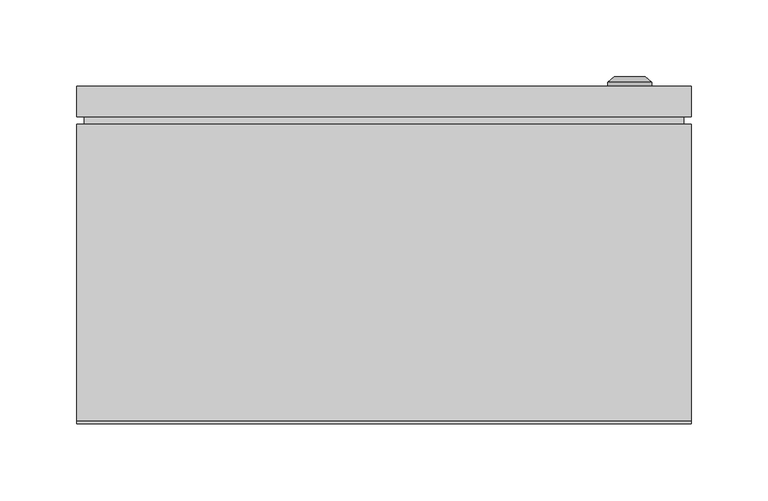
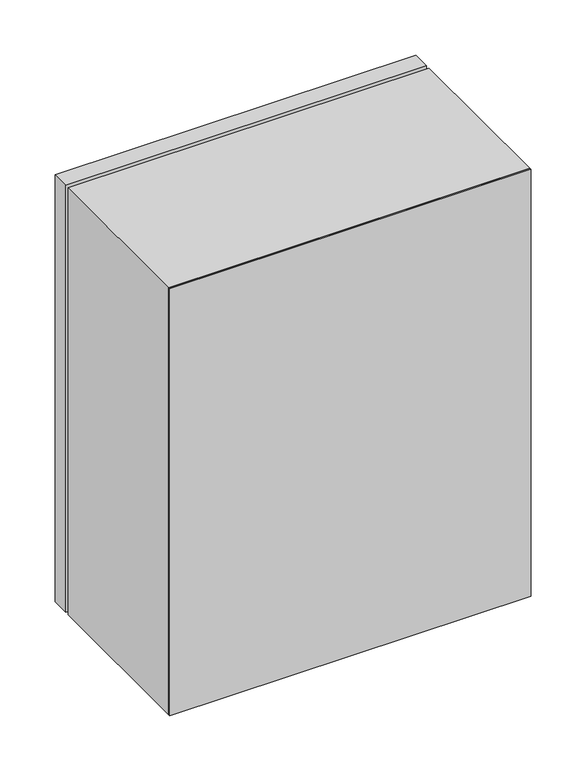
"""IFC4 building model written with IfcOpenShell, lengths in millimetres: proxy geometry, ЩМП_IP65 : ЩМП-2-0_500х400х220."""

from ifc_helpers import new_model, si_unit, frame, origin, origin_with_axes, place, context, project, spatial, polyline, circle_curve, outline, extrude, source, transform, mapped, element, save
from ifc_brep_helpers import plane_surface, cylinder_surface, revolved_surface, advanced_brep


def electrical_equipment_4e9208c9(model_context):
    return source(origin(), model_context, "Body", "SolidModel", [
        extrude(outline(polyline([(195.0, 195.0), (-195.0, 195.0), (-195.0, 200.0), (195.0, 200.0), (195.0, 195.0)])), frame((0.0, 0.0, 5.0), z_axis=(0.0, 0.0, 1.0), x_axis=(1.0, 0.0, 0.0)), (0.0, 0.0, 1.0), 490.0),
        extrude(outline(polyline([(200.0, 200.0), (-200.0, 200.0), (-200.0, 220.0), (200.0, 220.0), (200.0, 200.0)])), origin_with_axes(), (0.0, 0.0, 1.0), 500.0),
        advanced_brep(
        [(145.669873, 220.0, 250.0), (174.330127, 220.0, 250.0), (160.0, 220.0, 250.0), (145.669873, 222.366592, 250.0), (174.330127, 222.366592, 250.0), (150.0, 226.0, 250.0), (170.0, 226.0, 250.0), (158.1080471, 226.0, 250.0), (161.8919529, 226.0, 250.0), (158.1080471, 224.9822294, 250.0), (161.8919529, 224.9822294, 250.0), (160.0, 224.9822294, 250.0)],
        [
            (0, 1, circle_curve(frame((160.0, 220.0, 250.0), z_axis=(0.0, -1.0, 0.0), x_axis=(1.0, 0.0, 0.0)), 14.330127)),
            (1, 2),
            (2, 0),
            (1, 0, circle_curve(frame((160.0, 220.0, 250.0), z_axis=(0.0, -1.0, 0.0), x_axis=(1.0, 0.0, 0.0)), 14.330127)),
            (3, 4, circle_curve(frame((160.0, 222.366592, 250.0), z_axis=(0.0, -1.0, 0.0), x_axis=(1.0, 0.0, 0.0)), 14.330127)),
            (4, 1),
            (0, 3),
            (4, 3, circle_curve(frame((160.0, 222.366592, 250.0), z_axis=(0.0, -1.0, 0.0), x_axis=(1.0, 0.0, 0.0)), 14.330127)),
            (5, 6, circle_curve(frame((160.0, 226.0, 250.0), z_axis=(0.0, -1.0, 0.0), x_axis=(1.0, 0.0, 0.0)), 10.0)),
            (6, 4),
            (3, 5),
            (6, 5, circle_curve(frame((160.0, 226.0, 250.0), z_axis=(0.0, -1.0, 0.0), x_axis=(1.0, 0.0, 0.0)), 10.0)),
            (7, 8, circle_curve(frame((160.0, 226.0, 250.0), z_axis=(0.0, -1.0, 0.0), x_axis=(1.0, 0.0, 0.0)), 1.8919529)),
            (8, 6),
            (5, 7),
            (8, 7, circle_curve(frame((160.0, 226.0, 250.0), z_axis=(0.0, -1.0, 0.0), x_axis=(1.0, 0.0, 0.0)), 1.8919529)),
            (9, 10, circle_curve(frame((160.0, 224.9822294, 250.0), z_axis=(0.0, -1.0, 0.0), x_axis=(1.0, 0.0, 0.0)), 1.8919529)),
            (10, 8),
            (7, 9),
            (10, 9, circle_curve(frame((160.0, 224.9822294, 250.0), z_axis=(0.0, -1.0, 0.0), x_axis=(1.0, 0.0, 0.0)), 1.8919529)),
            (11, 10),
            (9, 11),
        ],
        [
            plane_surface(frame((160.0, 220.0, 250.0), z_axis=(0.0, -1.0, 0.0), x_axis=(1.0, 0.0, 0.0))),
            cylinder_surface(frame((160.0, 233.1348851, 250.0), z_axis=(0.0, 1.0, 0.0), x_axis=(1.0, 0.0, 0.0)), 14.330127),
            revolved_surface(polyline([(174.330127, 222.366592, 250.0), (170.0, 226.0, 250.0)]), (160.0, 233.1348851, 250.0), (0.0, 1.0, 0.0)),
            plane_surface(frame((160.0, 226.0, 250.0), z_axis=(0.0, 1.0, 0.0), x_axis=(1.0, 0.0, 0.0))),
            revolved_surface(polyline([(161.8919529, 226.0, 250.0), (161.8919529, 224.9822294, 250.0)]), (160.0, 233.1348851, 250.0), (0.0, 1.0, 0.0)),
            plane_surface(frame((160.0, 224.9822294, 250.0), z_axis=(0.0, 1.0, 0.0), x_axis=(1.0, 0.0, 0.0))),
        ],
        [
            (0, [[1, 2, 3]]),
            (0, [[4, -3, -2]]),
            (1, [[5, 6, -1, 7]]),
            (1, [[8, -7, -4, -6]]),
            (2, [[9, 10, -5, 11]]),
            (2, [[12, -11, -8, -10]]),
            (3, [[13, 14, -9, 15]]),
            (3, [[16, -15, -12, -14]]),
            (4, [[17, 18, -13, 19]]),
            (4, [[20, -19, -16, -18]]),
            (5, [[21, -17, 22]]),
            (5, [[-22, -20, -21]]),
        ],
    ),
        extrude(outline(polyline([(500.0, -200.0033905), (0.0, -200.0033905), (0.0, 199.9966095), (500.0, 199.9966095), (500.0, -200.0033905)]), holes=[polyline([(465.0, -170.0033905), (465.0, 169.9966095), (35.0, 169.9966095), (35.0, -170.0033905), (465.0, -170.0033905)])]), frame((0.0, 2.0, 0.0), z_axis=(0.0, 1.0, 0.0), x_axis=(0.0, 0.0, 1.0)), (0.0, 0.0, 1.0), 193.0),
        extrude(outline(polyline([(200.0, 0.0), (-200.0, 0.0), (-200.0, 2.0), (200.0, 2.0), (200.0, 0.0)])), origin_with_axes(), (0.0, 0.0, 1.0), 500.0),
    ])


if __name__ == "__main__":
    model = new_model("IFC4")
    model_context = context("Model", 3, world=origin())
    ifc_project = project(units=[si_unit("LENGTHUNIT", "METRE", prefix="MILLI")], contexts=[model_context])
    site = spatial("IfcSite", under=ifc_project)
    building = spatial("IfcBuilding", under=site)
    placement = place(None, origin())
    electrical_equipment_shape = electrical_equipment_4e9208c9(model_context)
    element("IfcBuildingElementProxy", 1, Name="ЩМП_IP65 : ЩМП-2-0_500х400х220", ObjectType="ЩМП_IP65 : ЩМП-2-0_500х400х220", at=placement, inside=building, context=model_context, shape_type="MappedRepresentation", body=[
        mapped(electrical_equipment_shape, transform((0.0, 0.0, 0.0), x_axis=(1.0, 0.0, 0.0), y_axis=(0.0, 1.0, 0.0), z_axis=(0.0, 0.0, 1.0))),
    ])
    save(model, "model.ifc")
